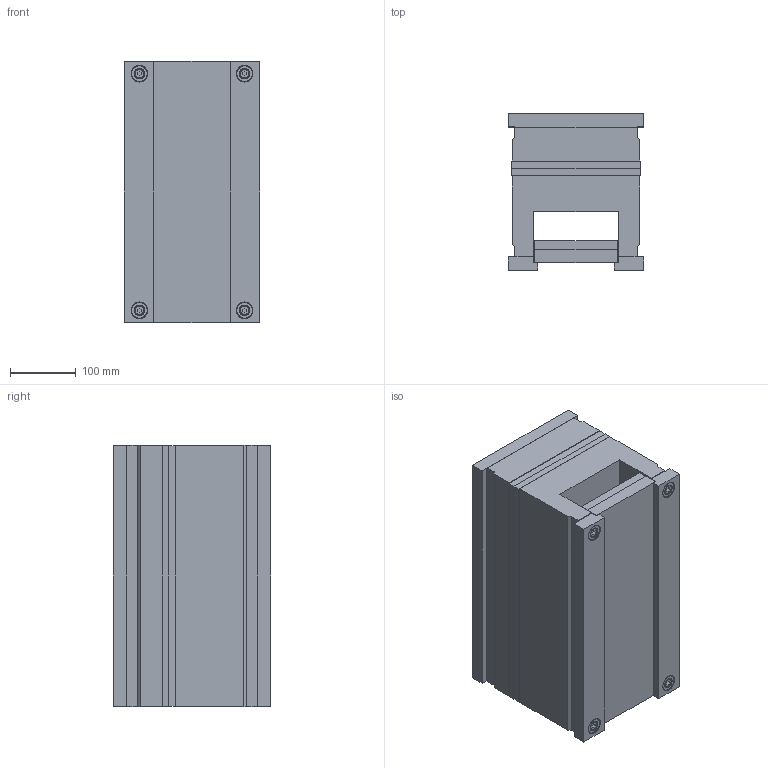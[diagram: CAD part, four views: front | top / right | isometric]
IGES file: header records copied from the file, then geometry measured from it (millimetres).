
Start section: SolidWorks IGES FILE using analytic representation for surfaces
Global section: file name: C:\Documents and Settings\K.P\My Documents\Mechanical\ALMO\CATL_EUR\RECT\1965.IGS; native system: SolidWorks 2001Plus by SolidWorks Corporation; preprocessor: Version 5.3; author: Pavel; date: 020709.092106; units: millimetre
Bounding box: 206 x 239 x 398 mm (x, y, z)
Surface area: 1037620.4 mm2 (no closed solid volume)
Topology: 0 solids, 0 shells, 706 faces, 10312 edges, 10304 vertices
Faces by surface type: revolution 452, bspline 254
